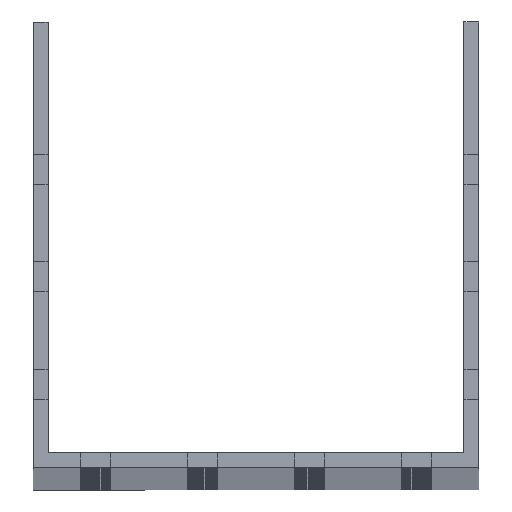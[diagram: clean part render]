
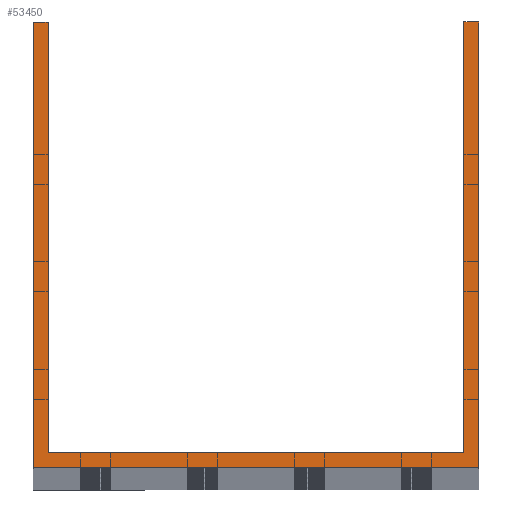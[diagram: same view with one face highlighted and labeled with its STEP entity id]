
A CAD part, top view. The second image highlights one B-rep face of the part: STEP entity #53450.
In plain terms, the highlighted planar face has unit normal (0, 0, 1).
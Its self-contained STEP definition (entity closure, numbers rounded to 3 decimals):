
#605 = VERTEX_POINT ( 'NONE', #85403 ) ;
#1541 = CARTESIAN_POINT ( 'NONE',  ( -52., 104., 1500. ) ) ;
#1879 = LINE ( 'NONE', #9817, #26628 ) ;
#2055 = LINE ( 'NONE', #34277, #34236 ) ;
#2675 = VECTOR ( 'NONE', #91259, 1000. ) ;
#3159 = CARTESIAN_POINT ( 'NONE',  ( -52., 3.5, 1500. ) ) ;
#3518 = DIRECTION ( 'NONE',  ( 0., 1., 0. ) ) ;
#8286 = VERTEX_POINT ( 'NONE', #55232 ) ;
#9474 = DIRECTION ( 'NONE',  ( 0., -1., 0. ) ) ;
#9599 = ORIENTED_EDGE ( 'NONE', *, *, #62880, .F. ) ;
#9817 = CARTESIAN_POINT ( 'NONE',  ( 48.5, 104., 1500. ) ) ;
#9891 = DIRECTION ( 'NONE',  ( -1., 0., 0. ) ) ;
#14322 = EDGE_CURVE ( 'NONE', #52337, #605, #1879, .T. ) ;
#17100 = ORIENTED_EDGE ( 'NONE', *, *, #56808, .F. ) ;
#19930 = EDGE_CURVE ( 'NONE', #8286, #605, #32200, .T. ) ;
#20492 = DIRECTION ( 'NONE',  ( 1., 0., 0. ) ) ;
#20899 = PLANE ( 'NONE',  #88926 ) ;
#24703 = DIRECTION ( 'NONE',  ( 0., 1., 0. ) ) ;
#26628 = VECTOR ( 'NONE', #24703, 1000. ) ;
#26957 = CARTESIAN_POINT ( 'NONE',  ( -52., 0., 1500. ) ) ;
#27507 = EDGE_CURVE ( 'NONE', #69183, #62902, #85851, .T. ) ;
#27806 = VERTEX_POINT ( 'NONE', #38147 ) ;
#28738 = ORIENTED_EDGE ( 'NONE', *, *, #88421, .T. ) ;
#32200 = LINE ( 'NONE', #38659, #2675 ) ;
#34236 = VECTOR ( 'NONE', #3518, 1000. ) ;
#34277 = CARTESIAN_POINT ( 'NONE',  ( 52., 104., 1500. ) ) ;
#37613 = VECTOR ( 'NONE', #20492, 1000. ) ;
#38147 = CARTESIAN_POINT ( 'NONE',  ( 52., 0., 1500. ) ) ;
#38659 = CARTESIAN_POINT ( 'NONE',  ( -52., 104., 1500. ) ) ;
#38666 = EDGE_LOOP ( 'NONE', ( #9599, #28738, #57914, #49423, #88642, #64669, #40308, #17100 ) ) ;
#40308 = ORIENTED_EDGE ( 'NONE', *, *, #14322, .F. ) ;
#41137 = LINE ( 'NONE', #93717, #49343 ) ;
#43720 = DIRECTION ( 'NONE',  ( 1., 0., 0. ) ) ;
#47125 = VECTOR ( 'NONE', #92970, 1000. ) ;
#47781 = DIRECTION ( 'NONE',  ( 0., -1., 0. ) ) ;
#49343 = VECTOR ( 'NONE', #9891, 1000. ) ;
#49423 = ORIENTED_EDGE ( 'NONE', *, *, #56870, .T. ) ;
#51171 = CARTESIAN_POINT ( 'NONE',  ( 0., 0., 1500. ) ) ;
#52337 = VERTEX_POINT ( 'NONE', #53598 ) ;
#53450 = ADVANCED_FACE ( 'NONE', ( #58615 ), #20899, .T. ) ;
#53598 = CARTESIAN_POINT ( 'NONE',  ( 48.5, 3.5, 1500. ) ) ;
#55232 = CARTESIAN_POINT ( 'NONE',  ( 52., 104., 1500. ) ) ;
#56808 = EDGE_CURVE ( 'NONE', #66711, #52337, #71133, .T. ) ;
#56870 = EDGE_CURVE ( 'NONE', #62902, #27806, #65642, .T. ) ;
#57338 = CARTESIAN_POINT ( 'NONE',  ( -48.5, 3.5, 1500. ) ) ;
#57914 = ORIENTED_EDGE ( 'NONE', *, *, #27507, .T. ) ;
#58615 = FACE_OUTER_BOUND ( 'NONE', #38666, .T. ) ;
#62672 = CARTESIAN_POINT ( 'NONE',  ( -48.5, 104., 1500. ) ) ;
#62880 = EDGE_CURVE ( 'NONE', #74002, #66711, #85008, .T. ) ;
#62902 = VERTEX_POINT ( 'NONE', #92449 ) ;
#64669 = ORIENTED_EDGE ( 'NONE', *, *, #19930, .T. ) ;
#65642 = LINE ( 'NONE', #26957, #37613 ) ;
#66711 = VERTEX_POINT ( 'NONE', #57338 ) ;
#67024 = CARTESIAN_POINT ( 'NONE',  ( -48.5, 104., 1500. ) ) ;
#69183 = VERTEX_POINT ( 'NONE', #80325 ) ;
#71133 = LINE ( 'NONE', #3159, #47125 ) ;
#74002 = VERTEX_POINT ( 'NONE', #67024 ) ;
#76562 = VECTOR ( 'NONE', #9474, 1000. ) ;
#80325 = CARTESIAN_POINT ( 'NONE',  ( -52., 104., 1500. ) ) ;
#81438 = DIRECTION ( 'NONE',  ( 0., 0., 1. ) ) ;
#85008 = LINE ( 'NONE', #62672, #96805 ) ;
#85403 = CARTESIAN_POINT ( 'NONE',  ( 48.5, 104., 1500. ) ) ;
#85851 = LINE ( 'NONE', #1541, #76562 ) ;
#88421 = EDGE_CURVE ( 'NONE', #74002, #69183, #41137, .T. ) ;
#88642 = ORIENTED_EDGE ( 'NONE', *, *, #95184, .T. ) ;
#88926 = AXIS2_PLACEMENT_3D ( 'NONE', #51171, #81438, #43720 ) ;
#91259 = DIRECTION ( 'NONE',  ( -1., 0., 0. ) ) ;
#92449 = CARTESIAN_POINT ( 'NONE',  ( -52., 0., 1500. ) ) ;
#92970 = DIRECTION ( 'NONE',  ( 1., 0., 0. ) ) ;
#93717 = CARTESIAN_POINT ( 'NONE',  ( -52., 104., 1500. ) ) ;
#95184 = EDGE_CURVE ( 'NONE', #27806, #8286, #2055, .T. ) ;
#96805 = VECTOR ( 'NONE', #47781, 1000. ) ;
